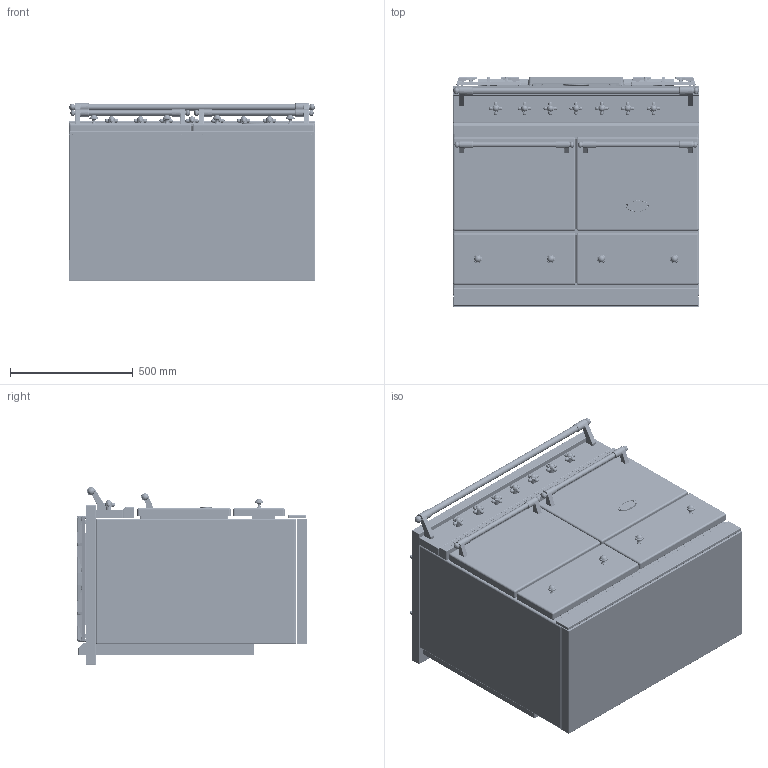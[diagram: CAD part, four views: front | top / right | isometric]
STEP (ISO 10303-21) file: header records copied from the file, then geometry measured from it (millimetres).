
FILE_DESCRIPTION((''),'2;1');
FILE_NAME('LCF1052_ASM','2014-07-07T',('p.perraut'),(''),'PRO/ENGINEER BY PARAMETRIC TECHNOLOGY CORPORATION, 2014090','PRO/ENGINEER BY PARAMETRIC TECHNOLOGY CORPORATION, 2014090','');
FILE_SCHEMA(('AP203_CONFIGURATION_CONTROLLED_3D_DESIGN_OF_MECHANICAL_PARTS_AND_ASSEMBLIES_MIM_LF { 1 0 10303 403 2 1 2 }'));
Products named in the file (26): BASE_EXPORT_CLUNY; 65650003; 65650004; 6531940; 6531941; 6538399; 1931942; 6518450; 6531942_ASM; 6531943; 65049009; 65650001; BASE_EXPORT_CLUNY_ASM; TABLE_1000_CLASSIQUE; 3KW; 5KW; 1_5KW; 4KW; 65062008; 65062012; 65149005; 90000549_ASM; 6537024; 90000487_ASM; TABLE_1000_TRADITION_ASM; LCF1052_ASM
Assembly tree (45 placements, depth 4):
  LCF1052_ASM
    BASE_EXPORT_CLUNY_ASM
      BASE_EXPORT_CLUNY
      65650003
      65650004
      6531940  x2
      6531941  x2
      6531942_ASM  x7
        6538399
        1931942
        6518450
      6531943  x4
      65049009
      65650001
    TABLE_1000_TRADITION_ASM
      TABLE_1000_CLASSIQUE
      3KW  x2
      5KW
      1_5KW
      4KW
      90000549_ASM
        65062008
        65062012
        65149005  x4
      90000487_ASM  x2
        6537024
        65149005
Bounding box: 1000 x 937.5 x 724 mm (x, y, z)
Volume: 516830759.9 mm3; surface area: 8887422.2 mm2
Topology: 56 solids, 66 shells, 7506 faces, 19850 edges, 12829 vertices
Faces by surface type: plane 3652, cylinder 2015, bspline 630, sphere 440, torus 320, extrusion 238, cone 199, revolution 12
Entity records: 197421 total; most frequent: CARTESIAN_POINT 49153, ORIENTED_EDGE 22590, DIRECTION 22468, EDGE_CURVE 11305, PRESENTATION_STYLE_ASSIGNMENT 9778, STYLED_ITEM 9755, CURVE_STYLE 9714, VECTOR 7746
